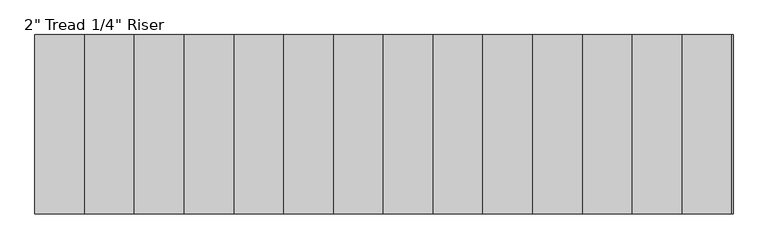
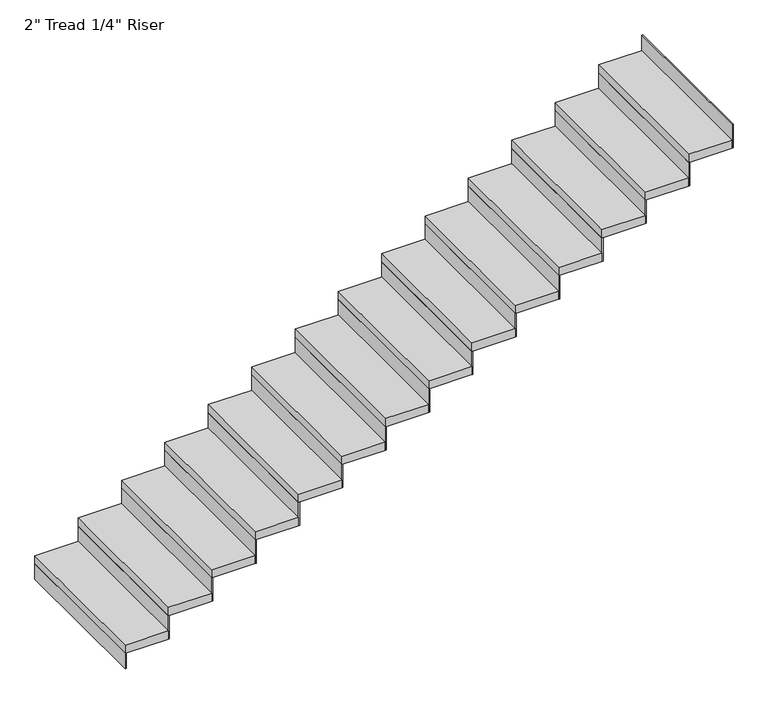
"""IFC4 building model written with IfcOpenShell, lengths in millimetres: stair flight geometry."""

import ifcopenshell
import ifcopenshell.guid

model = None  # the IFC model being written
_history = None  # IfcOwnerHistory: only IFC2X3 demands one
_inside = {}  # id of a spatial element -> (the spatial element, [elements in it])
_under = {}  # id of a project, library or spatial element -> (it, [spatial elements below it])
_declared = {}  # id of a project -> (the project, [libraries it declares])
_typed = {}  # id of a type object -> (the type object, [elements of that type])
_made_of = {}  # id of a material, layer set ... -> (it, [elements and type objects made of it])


def new_model(schema):
    """Start an empty IFC model of exactly this schema.

    Asked for "IFC4X3", IfcOpenShell would pick the latest addendum, in which some entities
    have other attributes; the version numbers below select the first issue.
    IFC2X3 requires an IfcOwnerHistory on every rooted entity: one is made here for all.
    """
    global model, _history
    if schema == "IFC4X3":
        model = ifcopenshell.file(schema_version=(4, 3, 0, 0))
    else:
        model = ifcopenshell.file(schema=schema)
    _inside.clear()
    _under.clear()
    _declared.clear()
    _typed.clear()
    _made_of.clear()
    _history = None
    if model.schema == "IFC2X3":
        org = make("IfcOrganization", Name="unknown")
        user = make(
            "IfcPersonAndOrganization",
            ThePerson=make("IfcPerson", FamilyName="unknown"),
            TheOrganization=org,
        )
        app = make(
            "IfcApplication",
            ApplicationDeveloper=org,
            Version="unknown",
            ApplicationFullName="unknown",
            ApplicationIdentifier="unknown",
        )
        _history = make(
            "IfcOwnerHistory",
            OwningUser=user,
            OwningApplication=app,
            ChangeAction="ADDED",
            CreationDate=0,
        )
    return model


def make(cls, **values):
    """One entity of the class cls with the attributes given. An attribute that is None is left unset."""
    return model.create_entity(
        cls, **{name: value for name, value in values.items() if value is not None}
    )


def rooted(cls, **values):
    """An entity with a GlobalId (a new one), such as an element, a storey or a relation."""
    return make(cls, GlobalId=ifcopenshell.guid.new(), OwnerHistory=_history, **values)


def si_unit(unit_type, name, prefix=None):
    """IfcSIUnit, for example si_unit("LENGTHUNIT", "METRE", prefix="MILLI")."""
    return make("IfcSIUnit", UnitType=unit_type, Prefix=prefix, Name=name)


def assignment(units):
    """IfcUnitAssignment: the units of a project."""
    return None if units is None else make("IfcUnitAssignment", Units=units)


def point(xyz):
    """IfcCartesianPoint."""
    return None if xyz is None else make("IfcCartesianPoint", Coordinates=xyz)


def direction(xyz):
    """IfcDirection."""
    return None if xyz is None else make("IfcDirection", DirectionRatios=xyz)


def frame(location, z_axis=None, x_axis=None):
    """IfcAxis2Placement3D, a coordinate frame: its origin and axes. An axis left out is left unset."""
    return make(
        "IfcAxis2Placement3D",
        Location=point(location),
        Axis=direction(z_axis),
        RefDirection=direction(x_axis),
    )


def origin():
    """The frame at (0, 0, 0) with its axes left unset."""
    return frame((0.0, 0.0, 0.0))


def origin_with_axes():
    """The frame at (0, 0, 0) with the z axis (0, 0, 1) and the x axis (1, 0, 0) written out."""
    return frame((0.0, 0.0, 0.0), z_axis=(0.0, 0.0, 1.0), x_axis=(1.0, 0.0, 0.0))


def place(relative_to, where):
    """IfcLocalPlacement: puts the frame where relative to a parent placement (None: the world)."""
    return make(
        "IfcLocalPlacement", PlacementRelTo=relative_to, RelativePlacement=where
    )


def context(
    kind, dimensions, precision=None, world=None, true_north=None, identifier=None
):
    """IfcGeometricRepresentationContext, for example the 3D "Model" context."""
    return make(
        "IfcGeometricRepresentationContext",
        ContextIdentifier=identifier,
        ContextType=kind,
        CoordinateSpaceDimension=dimensions,
        Precision=precision,
        WorldCoordinateSystem=world,
        TrueNorth=true_north,
    )


def project(units=None, contexts=None):
    """IfcProject with its units and contexts."""
    return rooted(
        "IfcProject",
        Name="project",
        RepresentationContexts=contexts,
        UnitsInContext=assignment(units),
    )


def spatial(cls, under=None, at=None, **own):
    """A site, building, storey or space (cls), placed at a placement, below another one or the project."""
    s = rooted(cls, ObjectPlacement=at, **own)
    if under is not None:
        _under.setdefault(under.id(), (under, []))[1].append(s)
    return s


def polyline(points):
    """IfcPolyline through the points."""
    return make("IfcPolyline", Points=[point(p) for p in points])


def outline(outer, holes=None, kind="AREA"):
    """IfcArbitraryClosedProfileDef: a profile drawn as a closed curve; with holes, ...WithVoids."""
    if holes is None:
        return make("IfcArbitraryClosedProfileDef", ProfileType=kind, OuterCurve=outer)
    return make(
        "IfcArbitraryProfileDefWithVoids",
        ProfileType=kind,
        OuterCurve=outer,
        InnerCurves=holes,
    )


def extrude(swept, where, along, depth):
    """IfcExtrudedAreaSolid: the profile swept, set in the frame where, extruded along a direction by depth."""
    return make(
        "IfcExtrudedAreaSolid",
        SweptArea=swept,
        Position=where,
        ExtrudedDirection=direction(along),
        Depth=depth,
    )


def shape(context_of_items, identifier, shape_type, items):
    """IfcShapeRepresentation: the items that make up one representation, for example the "Body"."""
    return make(
        "IfcShapeRepresentation",
        ContextOfItems=context_of_items,
        RepresentationIdentifier=identifier,
        RepresentationType=shape_type,
        Items=items,
    )


def source(mapping_origin, context_of_items, identifier, shape_type, items):
    """IfcRepresentationMap: a shape defined once, which mapped items show again and again."""
    return make(
        "IfcRepresentationMap",
        MappingOrigin=mapping_origin,
        MappedRepresentation=shape(context_of_items, identifier, shape_type, items),
    )


def transform(
    local_origin,
    x_axis=None,
    y_axis=None,
    z_axis=None,
    scale=None,
    scale2=None,
    scale3=None,
    uniform=True,
):
    """IfcCartesianTransformationOperator3D, or its non-uniform kind. x_axis, y_axis, z_axis: its Axis1, 2, 3."""
    if uniform:
        return make(
            "IfcCartesianTransformationOperator3D",
            Axis1=direction(x_axis),
            Axis2=direction(y_axis),
            LocalOrigin=point(local_origin),
            Scale=scale,
            Axis3=direction(z_axis),
        )
    return make(
        "IfcCartesianTransformationOperator3DnonUniform",
        Axis1=direction(x_axis),
        Axis2=direction(y_axis),
        LocalOrigin=point(local_origin),
        Scale=scale,
        Axis3=direction(z_axis),
        Scale2=scale2,
        Scale3=scale3,
    )


def mapped(mapping_source, mapping_target):
    """IfcMappedItem: shows the shape of a source again, moved by a transform."""
    return make(
        "IfcMappedItem", MappingSource=mapping_source, MappingTarget=mapping_target
    )


def made_of(thing, what):
    """Note that an element or type object is made of a material, layer set ...; save() writes the relation."""
    if what is not None:
        _made_of.setdefault(what.id(), (what, []))[1].append(thing)
    return thing


def element(
    cls,
    number,
    at=None,
    inside=None,
    cuts=None,
    type_object=None,
    material=None,
    context=None,
    identifier="Body",
    shape_type=None,
    held_by="IfcProductDefinitionShape",
    body=None,
    shapes=None,
    **own,
):
    """One element of the class cls, such as IfcWall. Its Tag is "e" and its number.

    at: its placement. inside: the storey or other place that contains it. cuts: it is an
    opening in that element (IfcRelVoidsElement). A single representation is given by context,
    identifier, shape_type and body (its items); several are given by shapes. held_by: the class
    of the entity that holds the representations. save() writes the other relations.
    """
    e = rooted(cls, Tag="e%d" % number, ObjectPlacement=at, **own)
    if body is not None:
        shapes = [shape(context, identifier, shape_type, body)]
    if shapes is not None:
        e.Representation = make(held_by, Representations=shapes)
    if inside is not None:
        _inside.setdefault(inside.id(), (inside, []))[1].append(e)
    if cuts is not None:
        rooted(
            "IfcRelVoidsElement", RelatingBuildingElement=cuts, RelatedOpeningElement=e
        )
    if type_object is not None:
        _typed.setdefault(type_object.id(), (type_object, []))[1].append(e)
    return made_of(e, material)


def aggregate(whole, parts):
    """IfcRelAggregates: a whole, such as a stair, and the parts it consists of."""
    return rooted("IfcRelAggregates", RelatingObject=whole, RelatedObjects=parts)


def save(model, path):
    """Write the relations noted so far, then the file.

    IfcRelAggregates (storeys below a building ...), IfcRelContainedInSpatialStructure (elements
    in a storey), IfcRelDefinesByType, IfcRelAssociatesMaterial and IfcRelDeclares: one each for
    every whole, place, type object, material and project.
    """
    for whole, parts in _under.values():
        aggregate(whole, parts)
    for where, things in _inside.values():
        rooted(
            "IfcRelContainedInSpatialStructure",
            RelatedElements=things,
            RelatingStructure=where,
        )
    for kind, things in _typed.values():
        rooted("IfcRelDefinesByType", RelatedObjects=things, RelatingType=kind)
    for what, things in _made_of.values():
        rooted("IfcRelAssociatesMaterial", RelatedObjects=things, RelatingMaterial=what)
    for by, libraries in _declared.values():
        rooted("IfcRelDeclares", RelatingContext=by, RelatedDefinitions=libraries)
    model.write(path)


def stair_flight_35d62cd0(model_context):
    return source(origin(), model_context, "Body", "SweptSolid", [
        extrude(outline(polyline([(134755.6382982, -18948.6120358), (134749.2882982, -18948.6120358), (134749.2882982, -18034.2120358), (134755.6382982, -18034.2120358), (134755.6382982, -18948.6120358)])), origin_with_axes(), (0.0, 0.0, 1.0), 94.3428571),
        extrude(outline(polyline([(135003.2882982, -18034.2120358), (135003.2882982, -18948.6120358), (134749.2882982, -18948.6120358), (134749.2882982, -18034.2120358), (135003.2882982, -18034.2120358)])), frame((0.0, 0.0, 94.3428571), z_axis=(0.0, 0.0, 1.0), x_axis=(1.0, 0.0, 0.0)), (0.0, 0.0, 1.0), 50.8),
        extrude(outline(polyline([(135009.6382982, -18948.6120358), (135003.2882982, -18948.6120358), (135003.2882982, -18034.2120358), (135009.6382982, -18034.2120358), (135009.6382982, -18948.6120358)])), frame((0.0, 0.0, 94.3428571), z_axis=(0.0, 0.0, 1.0), x_axis=(1.0, 0.0, 0.0)), (0.0, 0.0, 1.0), 145.1428571),
        extrude(outline(polyline([(135257.2882982, -18034.2120358), (135257.2882982, -18948.6120358), (135003.2882982, -18948.6120358), (135003.2882982, -18034.2120358), (135257.2882982, -18034.2120358)])), frame((0.0, 0.0, 239.4857143), z_axis=(0.0, 0.0, 1.0), x_axis=(1.0, 0.0, 0.0)), (0.0, 0.0, 1.0), 50.8),
        extrude(outline(polyline([(135263.6382982, -18948.6120358), (135257.2882982, -18948.6120358), (135257.2882982, -18034.2120358), (135263.6382982, -18034.2120358), (135263.6382982, -18948.6120358)])), frame((0.0, 0.0, 239.4857143), z_axis=(0.0, 0.0, 1.0), x_axis=(1.0, 0.0, 0.0)), (0.0, 0.0, 1.0), 145.1428571),
        extrude(outline(polyline([(135511.2882982, -18034.2120358), (135511.2882982, -18948.6120358), (135257.2882982, -18948.6120358), (135257.2882982, -18034.2120358), (135511.2882982, -18034.2120358)])), frame((0.0, 0.0, 384.6285714), z_axis=(0.0, 0.0, 1.0), x_axis=(1.0, 0.0, 0.0)), (0.0, 0.0, 1.0), 50.8),
        extrude(outline(polyline([(135517.6382982, -18948.6120358), (135511.2882982, -18948.6120358), (135511.2882982, -18034.2120358), (135517.6382982, -18034.2120358), (135517.6382982, -18948.6120358)])), frame((0.0, 0.0, 384.6285714), z_axis=(0.0, 0.0, 1.0), x_axis=(1.0, 0.0, 0.0)), (0.0, 0.0, 1.0), 145.1428571),
        extrude(outline(polyline([(135765.2882982, -18034.2120358), (135765.2882982, -18948.6120358), (135511.2882982, -18948.6120358), (135511.2882982, -18034.2120358), (135765.2882982, -18034.2120358)])), frame((0.0, 0.0, 529.7714286), z_axis=(0.0, 0.0, 1.0), x_axis=(1.0, 0.0, 0.0)), (0.0, 0.0, 1.0), 50.8),
        extrude(outline(polyline([(135771.6382982, -18948.6120358), (135765.2882982, -18948.6120358), (135765.2882982, -18034.2120358), (135771.6382982, -18034.2120358), (135771.6382982, -18948.6120358)])), frame((0.0, 0.0, 529.7714286), z_axis=(0.0, 0.0, 1.0), x_axis=(1.0, 0.0, 0.0)), (0.0, 0.0, 1.0), 145.1428571),
        extrude(outline(polyline([(136019.2882982, -18034.2120358), (136019.2882982, -18948.6120358), (135765.2882982, -18948.6120358), (135765.2882982, -18034.2120358), (136019.2882982, -18034.2120358)])), frame((0.0, 0.0, 674.9142857), z_axis=(0.0, 0.0, 1.0), x_axis=(1.0, 0.0, 0.0)), (0.0, 0.0, 1.0), 50.8),
        extrude(outline(polyline([(136025.6382982, -18948.6120358), (136019.2882982, -18948.6120358), (136019.2882982, -18034.2120358), (136025.6382982, -18034.2120358), (136025.6382982, -18948.6120358)])), frame((0.0, 0.0, 674.9142857), z_axis=(0.0, 0.0, 1.0), x_axis=(1.0, 0.0, 0.0)), (0.0, 0.0, 1.0), 145.1428571),
        extrude(outline(polyline([(136273.2882982, -18034.2120358), (136273.2882982, -18948.6120358), (136019.2882982, -18948.6120358), (136019.2882982, -18034.2120358), (136273.2882982, -18034.2120358)])), frame((0.0, 0.0, 820.0571429), z_axis=(0.0, 0.0, 1.0), x_axis=(1.0, 0.0, 0.0)), (0.0, 0.0, 1.0), 50.8),
        extrude(outline(polyline([(136279.6382982, -18948.6120358), (136273.2882982, -18948.6120358), (136273.2882982, -18034.2120358), (136279.6382982, -18034.2120358), (136279.6382982, -18948.6120358)])), frame((0.0, 0.0, 820.0571429), z_axis=(0.0, 0.0, 1.0), x_axis=(1.0, 0.0, 0.0)), (0.0, 0.0, 1.0), 145.1428571),
        extrude(outline(polyline([(136527.2882982, -18034.2120358), (136527.2882982, -18948.6120358), (136273.2882982, -18948.6120358), (136273.2882982, -18034.2120358), (136527.2882982, -18034.2120358)])), frame((0.0, 0.0, 965.2), z_axis=(0.0, 0.0, 1.0), x_axis=(1.0, 0.0, 0.0)), (0.0, 0.0, 1.0), 50.8),
        extrude(outline(polyline([(136533.6382982, -18948.6120358), (136527.2882982, -18948.6120358), (136527.2882982, -18034.2120358), (136533.6382982, -18034.2120358), (136533.6382982, -18948.6120358)])), frame((0.0, 0.0, 965.2), z_axis=(0.0, 0.0, 1.0), x_axis=(1.0, 0.0, 0.0)), (0.0, 0.0, 1.0), 145.1428571),
        extrude(outline(polyline([(136781.2882982, -18034.2120358), (136781.2882982, -18948.6120358), (136527.2882982, -18948.6120358), (136527.2882982, -18034.2120358), (136781.2882982, -18034.2120358)])), frame((0.0, 0.0, 1110.3428571), z_axis=(0.0, 0.0, 1.0), x_axis=(1.0, 0.0, 0.0)), (0.0, 0.0, 1.0), 50.8),
        extrude(outline(polyline([(136787.6382982, -18948.6120358), (136781.2882982, -18948.6120358), (136781.2882982, -18034.2120358), (136787.6382982, -18034.2120358), (136787.6382982, -18948.6120358)])), frame((0.0, 0.0, 1110.3428571), z_axis=(0.0, 0.0, 1.0), x_axis=(1.0, 0.0, 0.0)), (0.0, 0.0, 1.0), 145.1428571),
        extrude(outline(polyline([(137035.2882982, -18034.2120358), (137035.2882982, -18948.6120358), (136781.2882982, -18948.6120358), (136781.2882982, -18034.2120358), (137035.2882982, -18034.2120358)])), frame((0.0, 0.0, 1255.4857143), z_axis=(0.0, 0.0, 1.0), x_axis=(1.0, 0.0, 0.0)), (0.0, 0.0, 1.0), 50.8),
        extrude(outline(polyline([(137041.6382982, -18948.6120358), (137035.2882982, -18948.6120358), (137035.2882982, -18034.2120358), (137041.6382982, -18034.2120358), (137041.6382982, -18948.6120358)])), frame((0.0, 0.0, 1255.4857143), z_axis=(0.0, 0.0, 1.0), x_axis=(1.0, 0.0, 0.0)), (0.0, 0.0, 1.0), 145.1428571),
        extrude(outline(polyline([(137289.2882982, -18034.2120358), (137289.2882982, -18948.6120358), (137035.2882982, -18948.6120358), (137035.2882982, -18034.2120358), (137289.2882982, -18034.2120358)])), frame((0.0, 0.0, 1400.6285714), z_axis=(0.0, 0.0, 1.0), x_axis=(1.0, 0.0, 0.0)), (0.0, 0.0, 1.0), 50.8),
        extrude(outline(polyline([(137295.6382982, -18948.6120358), (137289.2882982, -18948.6120358), (137289.2882982, -18034.2120358), (137295.6382982, -18034.2120358), (137295.6382982, -18948.6120358)])), frame((0.0, 0.0, 1400.6285714), z_axis=(0.0, 0.0, 1.0), x_axis=(1.0, 0.0, 0.0)), (0.0, 0.0, 1.0), 145.1428571),
        extrude(outline(polyline([(137543.2882982, -18034.2120358), (137543.2882982, -18948.6120358), (137289.2882982, -18948.6120358), (137289.2882982, -18034.2120358), (137543.2882982, -18034.2120358)])), frame((0.0, 0.0, 1545.7714286), z_axis=(0.0, 0.0, 1.0), x_axis=(1.0, 0.0, 0.0)), (0.0, 0.0, 1.0), 50.8),
        extrude(outline(polyline([(137549.6382982, -18948.6120358), (137543.2882982, -18948.6120358), (137543.2882982, -18034.2120358), (137549.6382982, -18034.2120358), (137549.6382982, -18948.6120358)])), frame((0.0, 0.0, 1545.7714286), z_axis=(0.0, 0.0, 1.0), x_axis=(1.0, 0.0, 0.0)), (0.0, 0.0, 1.0), 145.1428571),
        extrude(outline(polyline([(137797.2882982, -18034.2120358), (137797.2882982, -18948.6120358), (137543.2882982, -18948.6120358), (137543.2882982, -18034.2120358), (137797.2882982, -18034.2120358)])), frame((0.0, 0.0, 1690.9142857), z_axis=(0.0, 0.0, 1.0), x_axis=(1.0, 0.0, 0.0)), (0.0, 0.0, 1.0), 50.8),
        extrude(outline(polyline([(137803.6382982, -18948.6120358), (137797.2882982, -18948.6120358), (137797.2882982, -18034.2120358), (137803.6382982, -18034.2120358), (137803.6382982, -18948.6120358)])), frame((0.0, 0.0, 1690.9142857), z_axis=(0.0, 0.0, 1.0), x_axis=(1.0, 0.0, 0.0)), (0.0, 0.0, 1.0), 145.1428571),
        extrude(outline(polyline([(138051.2882982, -18034.2120358), (138051.2882982, -18948.6120358), (137797.2882982, -18948.6120358), (137797.2882982, -18034.2120358), (138051.2882982, -18034.2120358)])), frame((0.0, 0.0, 1836.0571429), z_axis=(0.0, 0.0, 1.0), x_axis=(1.0, 0.0, 0.0)), (0.0, 0.0, 1.0), 50.8),
        extrude(outline(polyline([(138057.6382982, -18948.6120358), (138051.2882982, -18948.6120358), (138051.2882982, -18034.2120358), (138057.6382982, -18034.2120358), (138057.6382982, -18948.6120358)])), frame((0.0, 0.0, 1836.0571429), z_axis=(0.0, 0.0, 1.0), x_axis=(1.0, 0.0, 0.0)), (0.0, 0.0, 1.0), 145.1428571),
        extrude(outline(polyline([(138311.6382982, -18948.6120358), (138305.2882982, -18948.6120358), (138305.2882982, -18034.2120358), (138311.6382982, -18034.2120358), (138311.6382982, -18948.6120358)])), frame((0.0, 0.0, 1981.2), z_axis=(0.0, 0.0, 1.0), x_axis=(1.0, 0.0, 0.0)), (0.0, 0.0, 1.0), 145.1428571),
        extrude(outline(polyline([(138305.2882982, -18034.2120358), (138305.2882982, -18948.6120358), (138051.2882982, -18948.6120358), (138051.2882982, -18034.2120358), (138305.2882982, -18034.2120358)])), frame((0.0, 0.0, 1981.2), z_axis=(0.0, 0.0, 1.0), x_axis=(1.0, 0.0, 0.0)), (0.0, 0.0, 1.0), 50.8),
    ])


if __name__ == "__main__":
    model = new_model("IFC4")
    model_context = context("Model", 3, world=origin())
    ifc_project = project(units=[si_unit("LENGTHUNIT", "METRE", prefix="MILLI")], contexts=[model_context])
    site = spatial("IfcSite", under=ifc_project)
    building = spatial("IfcBuilding", under=site)
    placement = place(None, origin())
    stair_flight_shape = stair_flight_35d62cd0(model_context)
    element("IfcStairFlight", 1, ObjectType="2\" Tread 1/4\" Riser", at=placement, inside=building, context=model_context, shape_type="MappedRepresentation", body=[
        mapped(stair_flight_shape, transform((0.0, 0.0, 0.0), x_axis=(1.0, 0.0, 0.0), y_axis=(0.0, 1.0, 0.0), z_axis=(0.0, 0.0, 1.0))),
    ])
    save(model, "model.ifc")
